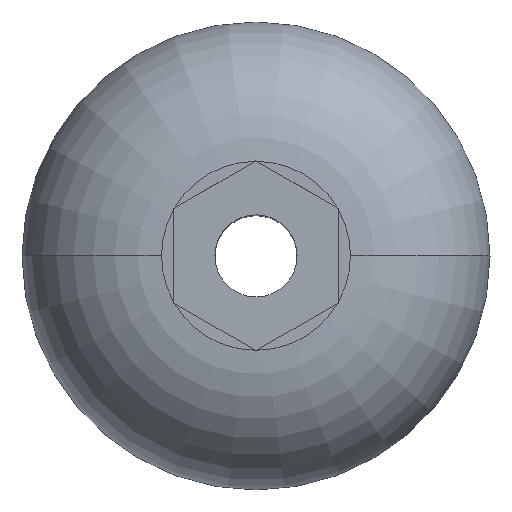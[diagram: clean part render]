
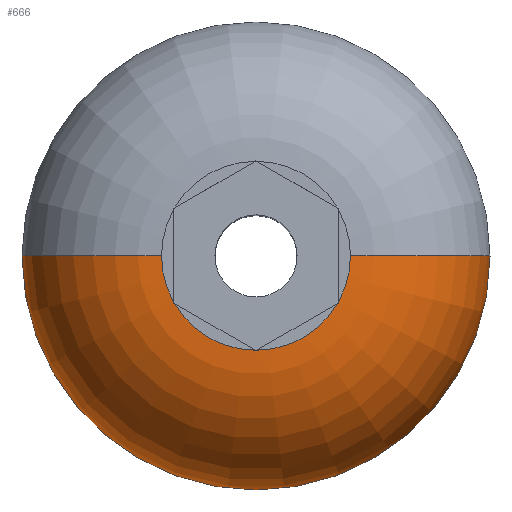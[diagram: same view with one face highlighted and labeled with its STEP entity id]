
A CAD part, top view. The second image highlights one B-rep face of the part: STEP entity #666.
In plain terms, the highlighted toroidal (fillet/blend) face has major radius 1.151 mm and minor radius 1.7 mm.
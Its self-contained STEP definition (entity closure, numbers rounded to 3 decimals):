
#6 = AXIS2_PLACEMENT_3D ( 'NONE', #821, #1828, #968 ) ;
#34 = TOROIDAL_SURFACE ( 'NONE', #1118, 1.151, 1.7 ) ;
#45 = DIRECTION ( 'NONE',  ( 0.866, -0.5, 0. ) ) ;
#52 = EDGE_CURVE ( 'NONE', #969, #591, #973, .T. ) ;
#78 = VECTOR ( 'NONE', #187, 1000. ) ;
#79 = VECTOR ( 'NONE', #45, 1000. ) ;
#82 = CIRCLE ( 'NONE', #723, 1.151 ) ;
#85 = VERTEX_POINT ( 'NONE', #295 ) ;
#89 = AXIS2_PLACEMENT_3D ( 'NONE', #1201, #1653, #1354 ) ;
#95 = CARTESIAN_POINT ( 'NONE',  ( 0., 0., 1.65 ) ) ;
#126 = EDGE_LOOP ( 'NONE', ( #1344, #1386, #1689, #1383, #812, #1398, #1666, #1257, #127, #1557, #382, #207, #1731 ) ) ;
#127 = ORIENTED_EDGE ( 'NONE', *, *, #1718, .T. ) ;
#171 = CIRCLE ( 'NONE', #6, 1.7 ) ;
#172 = EDGE_CURVE ( 'NONE', #1283, #643, #1590, .T. ) ;
#187 = DIRECTION ( 'NONE',  ( 0., 1., 0. ) ) ;
#207 = ORIENTED_EDGE ( 'NONE', *, *, #52, .T. ) ;
#230 = CARTESIAN_POINT ( 'NONE',  ( 1., -0.569, 1.65 ) ) ;
#231 = VERTEX_POINT ( 'NONE', #613 ) ;
#260 = DIRECTION ( 'NONE',  ( 1., 0., 0. ) ) ;
#275 = CARTESIAN_POINT ( 'NONE',  ( 1.151, 0., -0.05 ) ) ;
#285 = CARTESIAN_POINT ( 'NONE',  ( -1., -0.569, 1.65 ) ) ;
#294 = EDGE_CURVE ( 'NONE', #970, #231, #807, .T. ) ;
#295 = CARTESIAN_POINT ( 'NONE',  ( -1.151, 0., 1.65 ) ) ;
#311 = VECTOR ( 'NONE', #375, 1000. ) ;
#327 = CARTESIAN_POINT ( 'NONE',  ( 0., 0., -0.05 ) ) ;
#371 = FACE_OUTER_BOUND ( 'NONE', #126, .T. ) ;
#375 = DIRECTION ( 'NONE',  ( 0.866, 0.5, 0. ) ) ;
#382 = ORIENTED_EDGE ( 'NONE', *, *, #1385, .F. ) ;
#393 = EDGE_CURVE ( 'NONE', #402, #686, #1704, .T. ) ;
#397 = AXIS2_PLACEMENT_3D ( 'NONE', #275, #1547, #1730 ) ;
#402 = VERTEX_POINT ( 'NONE', #1512 ) ;
#441 = VERTEX_POINT ( 'NONE', #949 ) ;
#452 = CARTESIAN_POINT ( 'NONE',  ( -1., -0.569, 1.65 ) ) ;
#469 = AXIS2_PLACEMENT_3D ( 'NONE', #1239, #1516, #260 ) ;
#499 = EDGE_CURVE ( 'NONE', #855, #643, #82, .T. ) ;
#533 = DIRECTION ( 'NONE',  ( 1., 0., 0. ) ) ;
#547 = B_SPLINE_CURVE_WITH_KNOTS ( 'NONE', 3,
 ( #1131, #1264, #1268, #569 ),
 .UNSPECIFIED., .F., .F.,
 ( 4, 4 ),
 ( 0., 0. ),
 .UNSPECIFIED. ) ;
#569 = CARTESIAN_POINT ( 'NONE',  ( -0.007, -1.151, 1.65 ) ) ;
#591 = VERTEX_POINT ( 'NONE', #285 ) ;
#605 = VERTEX_POINT ( 'NONE', #822 ) ;
#613 = CARTESIAN_POINT ( 'NONE',  ( 1.151, 0., 1.65 ) ) ;
#627 = CARTESIAN_POINT ( 'NONE',  ( 1., -0.577, 1.65 ) ) ;
#643 = VERTEX_POINT ( 'NONE', #1128 ) ;
#647 = EDGE_CURVE ( 'NONE', #441, #231, #1799, .T. ) ;
#663 = DIRECTION ( 'NONE',  ( 0., 0., 1. ) ) ;
#666 = ADVANCED_FACE ( 'NONE', ( #371 ), #34, .T. ) ;
#683 = LINE ( 'NONE', #1656, #311 ) ;
#686 = VERTEX_POINT ( 'NONE', #1307 ) ;
#723 = AXIS2_PLACEMENT_3D ( 'NONE', #95, #663, #533 ) ;
#741 = CARTESIAN_POINT ( 'NONE',  ( -1., -0.577, 1.65 ) ) ;
#796 = EDGE_CURVE ( 'NONE', #1283, #970, #824, .T. ) ;
#805 = LINE ( 'NONE', #1609, #79 ) ;
#807 = CIRCLE ( 'NONE', #89, 1.151 ) ;
#812 = ORIENTED_EDGE ( 'NONE', *, *, #796, .F. ) ;
#821 = CARTESIAN_POINT ( 'NONE',  ( -1.151, 0., -0.05 ) ) ;
#822 = CARTESIAN_POINT ( 'NONE',  ( 0., -1.155, 1.65 ) ) ;
#824 = LINE ( 'NONE', #1750, #78 ) ;
#855 = VERTEX_POINT ( 'NONE', #885 ) ;
#869 = CARTESIAN_POINT ( 'NONE',  ( -1., -0.576, 1.65 ) ) ;
#882 = CARTESIAN_POINT ( 'NONE',  ( 1., -0.577, 1.65 ) ) ;
#885 = CARTESIAN_POINT ( 'NONE',  ( 0.007, -1.151, 1.65 ) ) ;
#887 = CARTESIAN_POINT ( 'NONE',  ( 0.995, -0.58, 1.65 ) ) ;
#891 = AXIS2_PLACEMENT_3D ( 'NONE', #1674, #1787, #1691 ) ;
#914 = EDGE_CURVE ( 'NONE', #605, #855, #683, .T. ) ;
#949 = CARTESIAN_POINT ( 'NONE',  ( 2.85, 0., 0. ) ) ;
#955 = VERTEX_POINT ( 'NONE', #1206 ) ;
#968 = DIRECTION ( 'NONE',  ( -1., 0., 0. ) ) ;
#969 = VERTEX_POINT ( 'NONE', #1789 ) ;
#970 = VERTEX_POINT ( 'NONE', #230 ) ;
#973 = B_SPLINE_CURVE_WITH_KNOTS ( 'NONE', 3,
 ( #741, #869, #1562, #1427, #452 ),
 .UNSPECIFIED., .F., .F.,
 ( 4, 1, 4 ),
 ( 0.014, 0.014, 0.014 ),
 .UNSPECIFIED. ) ;
#1019 = DIRECTION ( 'NONE',  ( 0., 0., 1. ) ) ;
#1118 = AXIS2_PLACEMENT_3D ( 'NONE', #327, #1019, #1716 ) ;
#1128 = CARTESIAN_POINT ( 'NONE',  ( 0.993, -0.581, 1.65 ) ) ;
#1131 = CARTESIAN_POINT ( 'NONE',  ( 0., -1.155, 1.65 ) ) ;
#1166 = CIRCLE ( 'NONE', #1204, 1.151 ) ;
#1201 = CARTESIAN_POINT ( 'NONE',  ( 0., 0., 1.65 ) ) ;
#1204 = AXIS2_PLACEMENT_3D ( 'NONE', #1530, #1813, #1537 ) ;
#1206 = CARTESIAN_POINT ( 'NONE',  ( -2.85, 0., 0. ) ) ;
#1239 = CARTESIAN_POINT ( 'NONE',  ( 0., 0., 1.65 ) ) ;
#1257 = ORIENTED_EDGE ( 'NONE', *, *, #914, .F. ) ;
#1264 = CARTESIAN_POINT ( 'NONE',  ( -0.002, -1.153, 1.65 ) ) ;
#1268 = CARTESIAN_POINT ( 'NONE',  ( -0.005, -1.152, 1.65 ) ) ;
#1283 = VERTEX_POINT ( 'NONE', #882 ) ;
#1302 = CARTESIAN_POINT ( 'NONE',  ( 0.993, -0.581, 1.65 ) ) ;
#1307 = CARTESIAN_POINT ( 'NONE',  ( -0.007, -1.151, 1.65 ) ) ;
#1344 = ORIENTED_EDGE ( 'NONE', *, *, #1578, .F. ) ;
#1354 = DIRECTION ( 'NONE',  ( 1., 0., 0. ) ) ;
#1383 = ORIENTED_EDGE ( 'NONE', *, *, #294, .F. ) ;
#1385 = EDGE_CURVE ( 'NONE', #969, #402, #805, .T. ) ;
#1386 = ORIENTED_EDGE ( 'NONE', *, *, #1588, .T. ) ;
#1398 = ORIENTED_EDGE ( 'NONE', *, *, #172, .T. ) ;
#1427 = CARTESIAN_POINT ( 'NONE',  ( -1., -0.571, 1.65 ) ) ;
#1512 = CARTESIAN_POINT ( 'NONE',  ( -0.993, -0.581, 1.65 ) ) ;
#1516 = DIRECTION ( 'NONE',  ( 0., 0., 1. ) ) ;
#1530 = CARTESIAN_POINT ( 'NONE',  ( 0., 0., 1.65 ) ) ;
#1537 = DIRECTION ( 'NONE',  ( 1., 0., 0. ) ) ;
#1547 = DIRECTION ( 'NONE',  ( 0., -1., 0. ) ) ;
#1557 = ORIENTED_EDGE ( 'NONE', *, *, #393, .F. ) ;
#1562 = CARTESIAN_POINT ( 'NONE',  ( -1., -0.573, 1.65 ) ) ;
#1578 = EDGE_CURVE ( 'NONE', #955, #85, #171, .T. ) ;
#1588 = EDGE_CURVE ( 'NONE', #955, #441, #1682, .T. ) ;
#1590 = B_SPLINE_CURVE_WITH_KNOTS ( 'NONE', 3,
 ( #627, #1747, #887, #1302 ),
 .UNSPECIFIED., .F., .F.,
 ( 4, 4 ),
 ( 0., 0. ),
 .UNSPECIFIED. ) ;
#1604 = EDGE_CURVE ( 'NONE', #85, #591, #1166, .T. ) ;
#1609 = CARTESIAN_POINT ( 'NONE',  ( -1., -0.577, 1.65 ) ) ;
#1653 = DIRECTION ( 'NONE',  ( 0., 0., 1. ) ) ;
#1656 = CARTESIAN_POINT ( 'NONE',  ( 0., -1.155, 1.65 ) ) ;
#1666 = ORIENTED_EDGE ( 'NONE', *, *, #499, .F. ) ;
#1674 = CARTESIAN_POINT ( 'NONE',  ( 0., 0., 0. ) ) ;
#1682 = CIRCLE ( 'NONE', #891, 2.85 ) ;
#1689 = ORIENTED_EDGE ( 'NONE', *, *, #647, .T. ) ;
#1691 = DIRECTION ( 'NONE',  ( 1., 0., 0. ) ) ;
#1704 = CIRCLE ( 'NONE', #469, 1.151 ) ;
#1716 = DIRECTION ( 'NONE',  ( 1., 0., 0. ) ) ;
#1718 = EDGE_CURVE ( 'NONE', #605, #686, #547, .T. ) ;
#1730 = DIRECTION ( 'NONE',  ( 0., 0., -1. ) ) ;
#1731 = ORIENTED_EDGE ( 'NONE', *, *, #1604, .F. ) ;
#1747 = CARTESIAN_POINT ( 'NONE',  ( 0.998, -0.579, 1.65 ) ) ;
#1750 = CARTESIAN_POINT ( 'NONE',  ( 1., -0.577, 1.65 ) ) ;
#1787 = DIRECTION ( 'NONE',  ( 0., 0., 1. ) ) ;
#1789 = CARTESIAN_POINT ( 'NONE',  ( -1., -0.577, 1.65 ) ) ;
#1799 = CIRCLE ( 'NONE', #397, 1.7 ) ;
#1813 = DIRECTION ( 'NONE',  ( 0., 0., 1. ) ) ;
#1828 = DIRECTION ( 'NONE',  ( 0., 1., 0. ) ) ;
